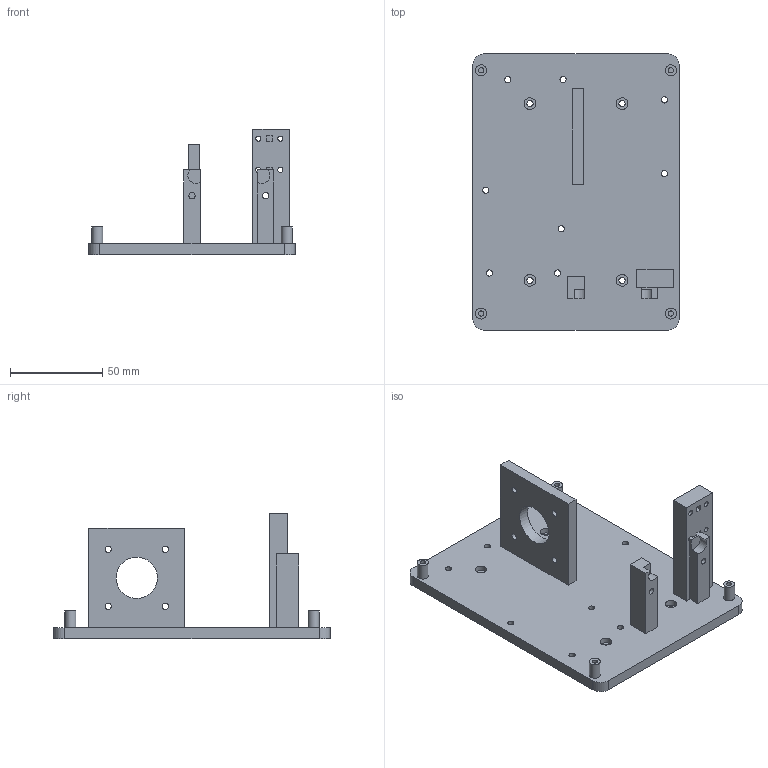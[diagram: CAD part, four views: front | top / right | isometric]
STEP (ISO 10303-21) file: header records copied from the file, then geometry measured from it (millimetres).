
FILE_DESCRIPTION(('Open CASCADE Model'),'2;1');
FILE_NAME('Open CASCADE Shape Model','2026-10-05T06:01:09',('Author'),( 'Open CASCADE'),'Open CASCADE STEP processor 7.8','Open CASCADE 7.8' ,'Unknown');
FILE_SCHEMA(('AUTOMOTIVE_DESIGN { 1 0 10303 214 1 1 1 1 }'));
Length unit declared in the file: millimetre
Products named in the file (1): Open CASCADE STEP translator 7.8 3
Bounding box: 112 x 150 x 68 mm (x, y, z)
Volume: 132632.6 mm3; surface area: 50926.2 mm2
Topology: 1 solids, 1 shells, 91 faces, 221 edges, 147 vertices
Faces by surface type: plane 49, cylinder 42
Full cylindrical faces by diameter (mm): 2.8 x8, 3.4 x17, 6 x4, 6.4 x4, 22.4 x1
Entity records: 5774 total; most frequent: CARTESIAN_POINT 1254, DIRECTION 835, LINE 447, VECTOR 447, ORIENTED_EDGE 442, PCURVE 442, DEFINITIONAL_REPRESENTATION 442, EDGE_CURVE 221
